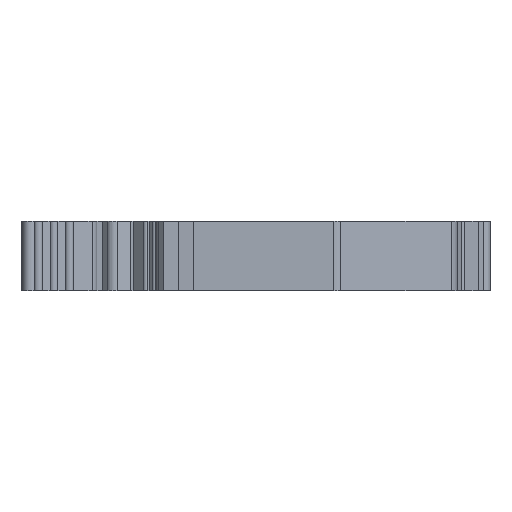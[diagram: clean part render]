
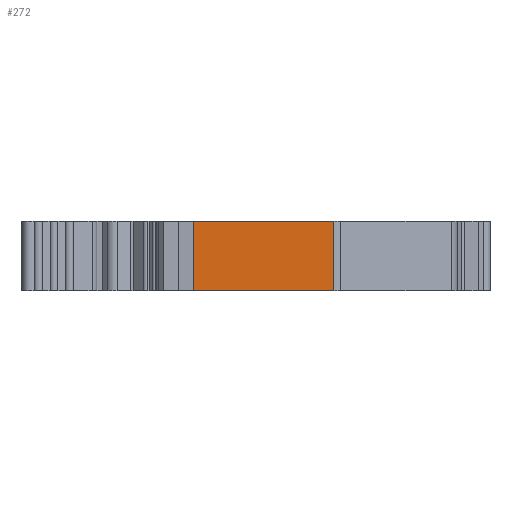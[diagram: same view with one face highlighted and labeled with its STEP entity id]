
A CAD part, left-side view. The second image highlights one B-rep face of the part: STEP entity #272.
In plain terms, the highlighted planar face has unit normal (-1, 0, 0).
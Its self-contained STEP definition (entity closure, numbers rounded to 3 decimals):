
#113=FACE_OUTER_BOUND('',#546,.T.);
#272=ADVANCED_FACE('',(#113),#427,.T.);
#427=PLANE('',#3346);
#546=EDGE_LOOP('',(#1048,#1049,#1050,#1051));
#1048=ORIENTED_EDGE('',*,*,#2262,.T.);
#1049=ORIENTED_EDGE('',*,*,#2263,.F.);
#1050=ORIENTED_EDGE('',*,*,#2264,.F.);
#1051=ORIENTED_EDGE('',*,*,#2078,.T.);
#1762=VERTEX_POINT('',#4482);
#1763=VERTEX_POINT('',#4484);
#1921=VERTEX_POINT('',#4850);
#1922=VERTEX_POINT('',#4854);
#2078=EDGE_CURVE('',#1763,#1762,#2548,.T.);
#2262=EDGE_CURVE('',#1762,#1921,#2677,.T.);
#2263=EDGE_CURVE('',#1922,#1921,#2678,.T.);
#2264=EDGE_CURVE('',#1763,#1922,#2679,.T.);
#2548=LINE('',#4483,#2914);
#2677=LINE('',#4851,#3043);
#2678=LINE('',#4853,#3044);
#2679=LINE('',#4855,#3045);
#2914=VECTOR('',#3559,1.);
#3043=VECTOR('',#3848,1.);
#3044=VECTOR('',#3851,1.);
#3045=VECTOR('',#3852,1.);
#3346=AXIS2_PLACEMENT_3D('',#4856,#3853,#3854);
#3559=DIRECTION('',(0.,1.,0.));
#3848=DIRECTION('',(0.,0.,-1.));
#3851=DIRECTION('',(0.,1.,0.));
#3852=DIRECTION('',(0.,0.,-1.));
#3853=DIRECTION('',(-1.,0.,0.));
#3854=DIRECTION('',(0.,1.,0.));
#4482=CARTESIAN_POINT('',(1637.841,1184.477,0.));
#4483=CARTESIAN_POINT('',(1637.841,1167.825,0.));
#4484=CARTESIAN_POINT('',(1637.841,1167.825,0.));
#4850=CARTESIAN_POINT('',(1637.841,1184.477,-8.2));
#4851=CARTESIAN_POINT('',(1637.841,1184.477,0.));
#4853=CARTESIAN_POINT('',(1637.841,1167.825,-8.2));
#4854=CARTESIAN_POINT('',(1637.841,1167.825,-8.2));
#4855=CARTESIAN_POINT('',(1637.841,1167.825,0.));
#4856=CARTESIAN_POINT('',(1637.841,1167.825,0.));
